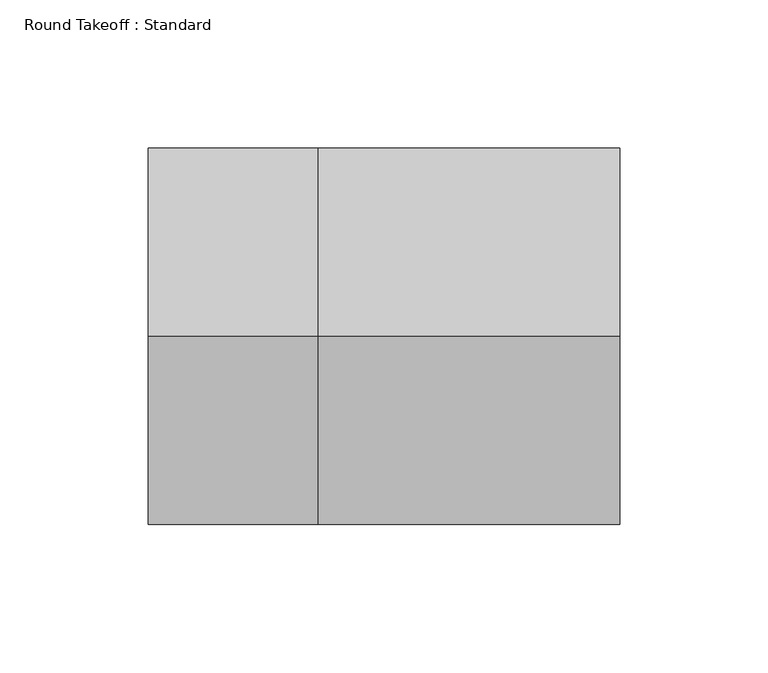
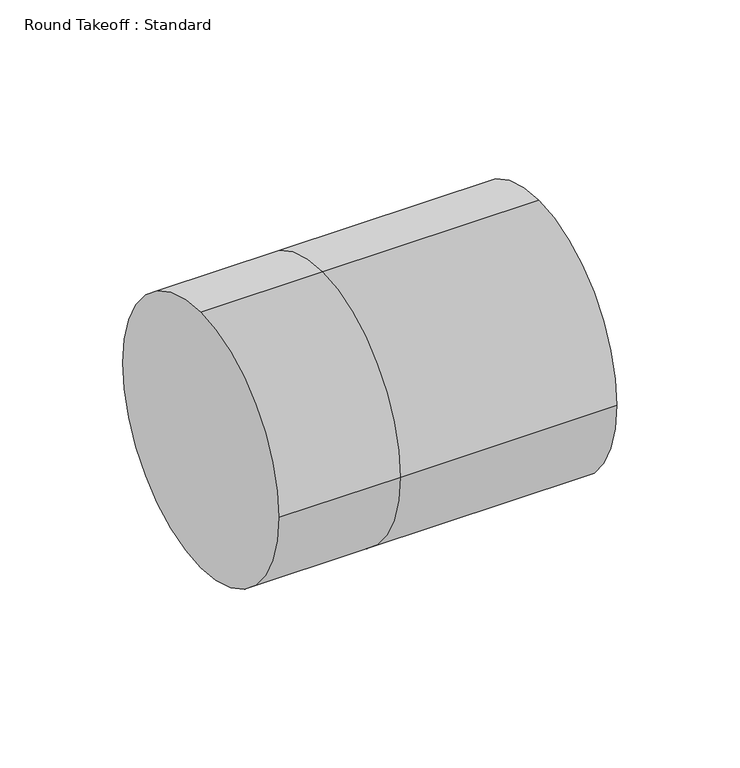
"""IFC4 building model written with IfcOpenShell, lengths in millimetres: duct fitting geometry, Round Takeoff : Standard."""

from ifc_helpers import new_model, si_unit, frame, origin, place, context, project, spatial, circle_curve, source, transform, mapped, element, save
from ifc_brep_helpers import plane_surface, cylinder_surface, advanced_brep


def round_takeoff_standard_17dc06e3(model_context):
    return source(origin(), model_context, "Body", "AdvancedBrep", [
        advanced_brep(
        [(101.6, 0.0, 63.5), (101.6, -63.5, 0.0), (101.6, 0.0, -63.5), (101.6, 63.5, 0.0), (0.0, 0.0, 63.5), (0.0, -63.5, 0.0), (0.0, 0.0, -63.5), (0.0, 63.5, 0.0), (-57.404, 0.0, 63.5), (-57.404, 63.5, 0.0), (-57.404, 0.0, -63.5), (-57.404, -63.5, 0.0)],
        [
            (0, 1, circle_curve(frame((101.6, 0.0, 0.0), z_axis=(1.0, 0.0, 0.0), x_axis=(0.0, -1.0, 0.0)), 63.5)),
            (1, 2, circle_curve(frame((101.6, 0.0, 0.0), z_axis=(1.0, 0.0, 0.0), x_axis=(0.0, -1.0, 0.0)), 63.5)),
            (2, 3, circle_curve(frame((101.6, 0.0, 0.0), z_axis=(1.0, 0.0, 0.0), x_axis=(0.0, -1.0, 0.0)), 63.5)),
            (3, 0, circle_curve(frame((101.6, 0.0, 0.0), z_axis=(1.0, 0.0, 0.0), x_axis=(0.0, -1.0, 0.0)), 63.5)),
            (0, 4),
            (4, 5, circle_curve(frame((0.0, 0.0, 0.0), z_axis=(1.0, 0.0, 0.0), x_axis=(0.0, -1.0, 0.0)), 63.5)),
            (5, 1),
            (5, 6, circle_curve(frame((0.0, 0.0, 0.0), z_axis=(1.0, 0.0, 0.0), x_axis=(0.0, -1.0, 0.0)), 63.5)),
            (6, 2),
            (6, 7, circle_curve(frame((0.0, 0.0, 0.0), z_axis=(1.0, 0.0, 0.0), x_axis=(0.0, -1.0, 0.0)), 63.5)),
            (7, 3),
            (7, 4, circle_curve(frame((0.0, 0.0, 0.0), z_axis=(1.0, 0.0, 0.0), x_axis=(0.0, -1.0, 0.0)), 63.5)),
            (8, 9, circle_curve(frame((-57.404, 0.0, 0.0), z_axis=(-1.0, 0.0, 0.0), x_axis=(0.0, -1.0, 0.0)), 63.5)),
            (9, 10, circle_curve(frame((-57.404, 0.0, 0.0), z_axis=(-1.0, 0.0, 0.0), x_axis=(0.0, -1.0, 0.0)), 63.5)),
            (10, 11, circle_curve(frame((-57.404, 0.0, 0.0), z_axis=(-1.0, 0.0, 0.0), x_axis=(0.0, -1.0, 0.0)), 63.5)),
            (11, 8, circle_curve(frame((-57.404, 0.0, 0.0), z_axis=(-1.0, 0.0, 0.0), x_axis=(0.0, -1.0, 0.0)), 63.5)),
            (11, 5),
            (4, 8),
            (10, 6),
            (9, 7),
        ],
        [
            plane_surface(frame((101.6, 0.0, 0.0), z_axis=(1.0, 0.0, 0.0), x_axis=(0.0, 0.0, 1.0))),
            cylinder_surface(frame((0.0, 0.0, 0.0), z_axis=(-1.0, 0.0, 0.0), x_axis=(0.0, -1.0, 0.0)), 63.5),
            plane_surface(frame((-57.404, 0.0, 0.0), z_axis=(-1.0, 0.0, 0.0), x_axis=(0.0, 0.0, 1.0))),
            cylinder_surface(frame((-57.404, 0.0, 0.0), z_axis=(-1.0, 0.0, 0.0), x_axis=(0.0, -1.0, 0.0)), 63.5),
        ],
        [
            (0, [[1, 2, 3, 4]]),
            (1, [[5, 6, 7, -1]]),
            (1, [[-7, 8, 9, -2]]),
            (1, [[-9, 10, 11, -3]]),
            (1, [[-11, 12, -5, -4]]),
            (2, [[13, 14, 15, 16]]),
            (3, [[17, -6, 18, -16]]),
            (3, [[19, -8, -17, -15]]),
            (3, [[20, -10, -19, -14]]),
            (3, [[-18, -12, -20, -13]]),
        ],
    ),
    ])


if __name__ == "__main__":
    model = new_model("IFC4")
    model_context = context("Model", 3, world=origin())
    ifc_project = project(units=[si_unit("LENGTHUNIT", "METRE", prefix="MILLI")], contexts=[model_context])
    site = spatial("IfcSite", under=ifc_project)
    building = spatial("IfcBuilding", under=site)
    placement = place(None, origin())
    round_takeoff_standard_shape = round_takeoff_standard_17dc06e3(model_context)
    element("IfcDuctFitting", 1, ObjectType="Round Takeoff : Standard", at=placement, inside=building, context=model_context, shape_type="MappedRepresentation", body=[
        mapped(round_takeoff_standard_shape, transform((0.0, 0.0, 0.0), x_axis=(1.0, 0.0, 0.0), y_axis=(0.0, 1.0, 0.0), z_axis=(0.0, 0.0, 1.0))),
    ])
    save(model, "model.ifc")
